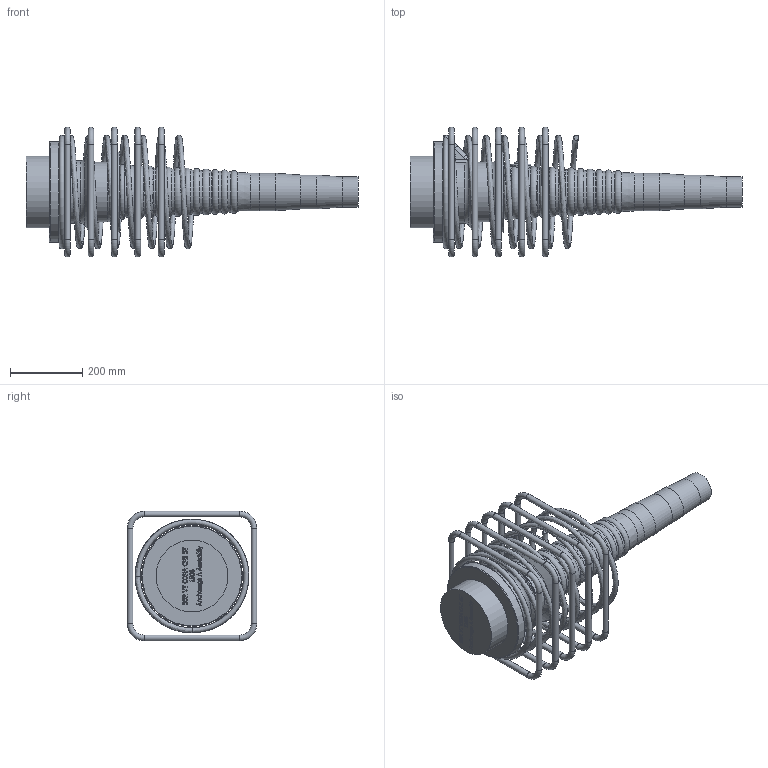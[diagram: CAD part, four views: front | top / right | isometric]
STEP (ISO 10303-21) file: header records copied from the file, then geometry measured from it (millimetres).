
FILE_DESCRIPTION(/* description */ (''),/* implementation_level */ '2;1');
FILE_NAME(/* name */ 'Z:\04 Publications\05 Give-out\BBR\6_3D_Models\BBR VT CONA CMI\BBR VT CONA CMI BT\01506\BBR VT CONA CMI BT 1506_Anchorage A Assembly_CS-34,28.stp',/* time_stamp */ '2017-05-05T08:50:43+02:00',/* author */ ('IP'),/* organization */ (''),/* preprocessor_version */ 'ST-DEVELOPER v16.1',/* originating_system */ 'Autodesk Inventor 2016',/* authorisation */ '');
FILE_SCHEMA (('AUTOMOTIVE_DESIGN { 1 0 10303 214 3 1 1 }'));
Length unit declared in the file: millimetre
Products named in the file (1): BBR VT CONA CMI BT 1506_Anchorage A Assembly_CS-34,28
Bounding box: 921.1 x 360 x 360 mm (x, y, z)
Volume: 17378303.1 mm3; surface area: 1229960.8 mm2
Topology: 7 solids, 8 shells, 779 faces, 2009 edges, 1292 vertices
Faces by surface type: plane 327, bspline 311, torus 77, cylinder 35, cone 19, sphere 10
Full cylindrical faces by diameter (mm): 16 x20, 34 x1, 57 x1, 84 x1, 94 x1, 104 x1, 164 x1, 200 x1, 218 x1, 223.017 x1, 280 x1
Entity records: 29441 total; most frequent: CARTESIAN_POINT 12229, ORIENTED_EDGE 3774, DIRECTION 2367, EDGE_CURVE 1887, VERTEX_POINT 1282, LINE 1069, VECTOR 1069, EDGE_LOOP 949
